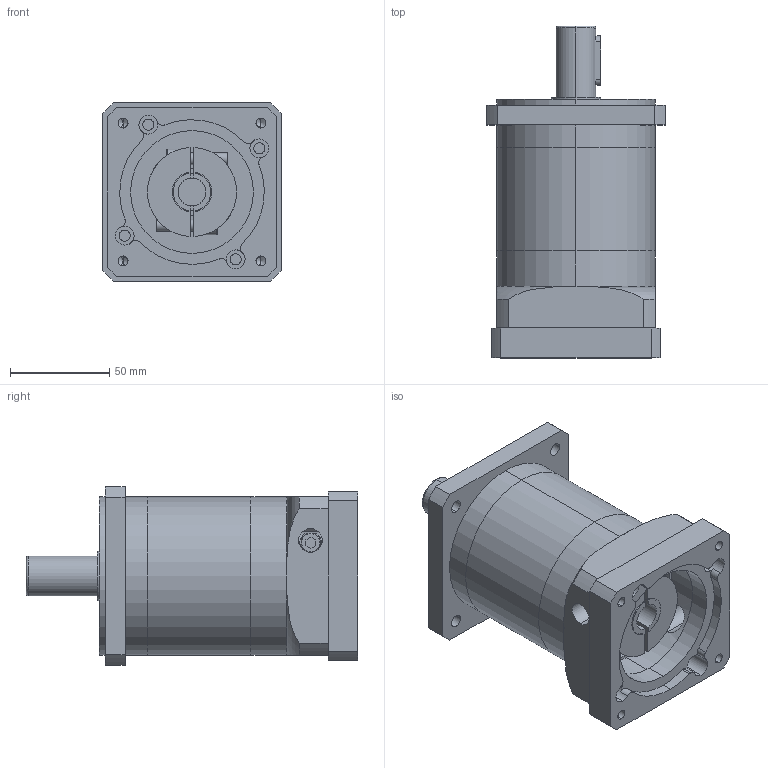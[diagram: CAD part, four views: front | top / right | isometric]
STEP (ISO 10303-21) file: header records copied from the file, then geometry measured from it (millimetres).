
FILE_DESCRIPTION (( 'STEP AP203' ), '1' );
FILE_NAME ('WPF080新-L1外形图(14-48.5-73-方69.6-M6)连接板.STEP', '2019-06-17T06:06:06', ( 'Windows' ), ( 'Microsoft' ), 'SwSTEP 2.0', 'SolidWorks 2016', '' );
FILE_SCHEMA (( 'CONFIG_CONTROL_DESIGN' ));
Length unit declared in the file: millimetre
Products named in the file (1): WPF080新-L1外形图(14-48.5-73-方69.6-M6)连接板
Bounding box: 90 x 167.5 x 90 mm (x, y, z)
Volume: 645055 mm3; surface area: 101599.4 mm2
Topology: 4 solids, 4 shells, 241 faces, 611 edges, 385 vertices
Faces by surface type: cylinder 125, plane 84, cone 22, torus 10
Entity records: 7960 total; most frequent: CARTESIAN_POINT 1900, DIRECTION 1347, ORIENTED_EDGE 1186, EDGE_CURVE 593, AXIS2_PLACEMENT_3D 536, VERTEX_POINT 385, CIRCLE 294, EDGE_LOOP 288
